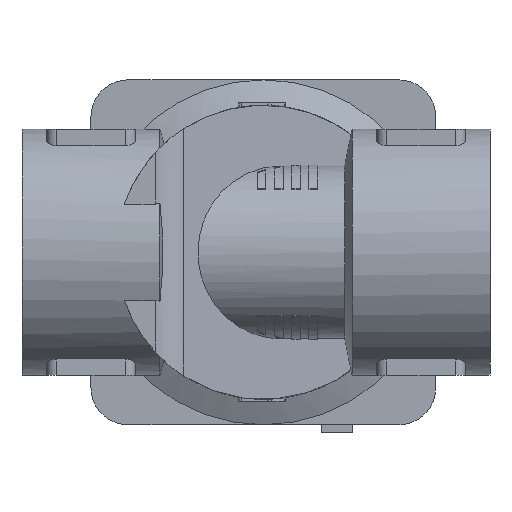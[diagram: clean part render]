
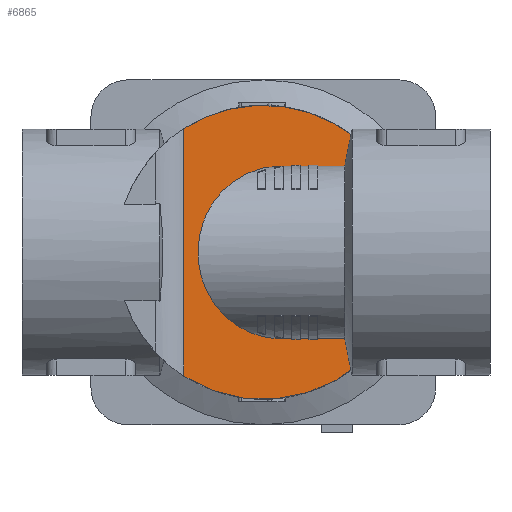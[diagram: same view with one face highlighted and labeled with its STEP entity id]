
A CAD part, front view. The second image highlights one B-rep face of the part: STEP entity #6865.
In plain terms, the highlighted planar face has unit normal (0.724, -0.69, 0).
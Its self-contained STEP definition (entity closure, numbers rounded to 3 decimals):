
#62=ELLIPSE('',#7210,43.243,29.85);
#67=ELLIPSE('',#7222,43.243,29.85);
#78=ELLIPSE('',#7252,24.186,17.5);
#85=ELLIPSE('',#7353,34.552,25.);
#86=ELLIPSE('',#7354,34.552,25.);
#129=B_SPLINE_CURVE_WITH_KNOTS('',3,(#10344,#10345,#10346,#10347),
 .UNSPECIFIED.,.F.,.F.,(4,4),(0.,0.002),
 .UNSPECIFIED.);
#130=B_SPLINE_CURVE_WITH_KNOTS('',3,(#10359,#10360,#10361,#10362),
 .UNSPECIFIED.,.F.,.F.,(4,4),(0.007,0.009),
 .UNSPECIFIED.);
#403=LINE('',#10077,#922);
#405=LINE('',#10081,#924);
#496=LINE('',#10352,#1015);
#497=LINE('',#10354,#1016);
#498=LINE('',#10355,#1017);
#499=LINE('',#10364,#1018);
#500=LINE('',#10365,#1019);
#922=VECTOR('',#8188,1000.);
#924=VECTOR('',#8192,1000.);
#1015=VECTOR('',#8459,1000.);
#1016=VECTOR('',#8460,1000.);
#1017=VECTOR('',#8461,1000.);
#1018=VECTOR('',#8464,1000.);
#1019=VECTOR('',#8465,1000.);
#2010=ORIENTED_EDGE('',*,*,#3374,.F.);
#2011=ORIENTED_EDGE('',*,*,#3375,.F.);
#2012=ORIENTED_EDGE('',*,*,#3376,.F.);
#2013=ORIENTED_EDGE('',*,*,#3377,.F.);
#2014=ORIENTED_EDGE('',*,*,#3148,.F.);
#2015=ORIENTED_EDGE('',*,*,#3243,.T.);
#2016=ORIENTED_EDGE('',*,*,#3172,.F.);
#2017=ORIENTED_EDGE('',*,*,#3245,.F.);
#2018=ORIENTED_EDGE('',*,*,#3378,.F.);
#2019=ORIENTED_EDGE('',*,*,#3379,.F.);
#2020=ORIENTED_EDGE('',*,*,#3380,.F.);
#2021=ORIENTED_EDGE('',*,*,#3381,.F.);
#2022=ORIENTED_EDGE('',*,*,#3218,.T.);
#2023=ORIENTED_EDGE('',*,*,#3382,.F.);
#3148=EDGE_CURVE('',#3922,#3923,#62,.F.);
#3172=EDGE_CURVE('',#3946,#3947,#67,.F.);
#3218=EDGE_CURVE('',#3993,#3992,#78,.F.);
#3243=EDGE_CURVE('',#3922,#3947,#403,.T.);
#3245=EDGE_CURVE('',#4011,#3946,#405,.T.);
#3374=EDGE_CURVE('',#4089,#4090,#129,.T.);
#3375=EDGE_CURVE('',#4091,#4089,#85,.T.);
#3376=EDGE_CURVE('',#4092,#4091,#496,.T.);
#3377=EDGE_CURVE('',#3923,#4092,#497,.T.);
#3378=EDGE_CURVE('',#4093,#4011,#498,.T.);
#3379=EDGE_CURVE('',#4094,#4093,#86,.T.);
#3380=EDGE_CURVE('',#4095,#4094,#130,.T.);
#3381=EDGE_CURVE('',#3993,#4095,#499,.T.);
#3382=EDGE_CURVE('',#4090,#3992,#500,.T.);
#3922=VERTEX_POINT('',#9789);
#3923=VERTEX_POINT('',#9791);
#3946=VERTEX_POINT('',#9878);
#3947=VERTEX_POINT('',#9880);
#3992=VERTEX_POINT('',#10011);
#3993=VERTEX_POINT('',#10013);
#4011=VERTEX_POINT('',#10080);
#4089=VERTEX_POINT('',#10348);
#4090=VERTEX_POINT('',#10349);
#4091=VERTEX_POINT('',#10351);
#4092=VERTEX_POINT('',#10353);
#4093=VERTEX_POINT('',#10356);
#4094=VERTEX_POINT('',#10358);
#4095=VERTEX_POINT('',#10363);
#4707=EDGE_LOOP('',(#2010,#2011,#2012,#2013,#2014,#2015,#2016,#2017,#2018,
#2019,#2020,#2021,#2022,#2023));
#5091=FACE_BOUND('',#4707,.T.);
#5420=PLANE('',#7352);
#6865=ADVANCED_FACE('',(#5091),#5420,.T.);
#7210=AXIS2_PLACEMENT_3D('',#9790,#8052,#8053);
#7222=AXIS2_PLACEMENT_3D('',#9879,#8080,#8081);
#7252=AXIS2_PLACEMENT_3D('',#10012,#8149,#8150);
#7352=AXIS2_PLACEMENT_3D('',#10343,#8455,#8456);
#7353=AXIS2_PLACEMENT_3D('',#10350,#8457,#8458);
#7354=AXIS2_PLACEMENT_3D('',#10357,#8462,#8463);
#8052=DIRECTION('',(0.724,-0.69,0.));
#8053=DIRECTION('',(0.69,0.724,0.));
#8080=DIRECTION('',(0.724,-0.69,0.));
#8081=DIRECTION('',(0.69,0.724,0.));
#8149=DIRECTION('',(0.724,-0.69,0.));
#8150=DIRECTION('',(-0.69,-0.724,0.));
#8188=DIRECTION('',(0.,0.,-1.));
#8192=DIRECTION('',(0.,0.,-1.));
#8455=DIRECTION('',(0.724,-0.69,0.));
#8456=DIRECTION('',(0.69,0.724,0.));
#8457=DIRECTION('',(0.724,-0.69,0.));
#8458=DIRECTION('',(0.69,0.724,0.));
#8459=DIRECTION('',(-0.69,-0.724,0.));
#8460=DIRECTION('',(0.,0.,-1.));
#8461=DIRECTION('',(0.69,0.724,0.));
#8462=DIRECTION('',(0.724,-0.69,0.));
#8463=DIRECTION('',(0.69,0.724,0.));
#8464=DIRECTION('',(0.69,0.724,0.));
#8465=DIRECTION('',(-0.69,-0.724,0.));
#9789=CARTESIAN_POINT('',(-16.136,-20.522,25.113));
#9790=CARTESIAN_POINT('',(0.,-3.608,0.));
#9791=CARTESIAN_POINT('',(23.,20.5,19.027));
#9878=CARTESIAN_POINT('',(23.,20.5,-19.027));
#9879=CARTESIAN_POINT('',(0.,-3.608,0.));
#9880=CARTESIAN_POINT('',(-16.136,-20.522,-25.113));
#10011=CARTESIAN_POINT('',(3.443,0.,17.5));
#10012=CARTESIAN_POINT('',(3.443,0.,0.));
#10013=CARTESIAN_POINT('',(3.443,0.,-17.5));
#10077=CARTESIAN_POINT('',(-16.136,-20.522,70.));
#10080=CARTESIAN_POINT('',(23.,20.5,-17.5));
#10081=CARTESIAN_POINT('',(23.,20.5,70.));
#10343=CARTESIAN_POINT('',(23.,20.5,70.));
#10344=CARTESIAN_POINT('',(18.,15.259,19.803));
#10345=CARTESIAN_POINT('',(17.861,15.113,19.036));
#10346=CARTESIAN_POINT('',(17.723,14.969,18.268));
#10347=CARTESIAN_POINT('',(17.587,14.826,17.5));
#10348=CARTESIAN_POINT('',(18.,15.259,19.803));
#10349=CARTESIAN_POINT('',(17.587,14.826,17.5));
#10350=CARTESIAN_POINT('',(3.443,0.,0.));
#10351=CARTESIAN_POINT('',(20.475,17.854,17.5));
#10352=CARTESIAN_POINT('',(23.,20.5,17.5));
#10353=CARTESIAN_POINT('',(23.,20.5,17.5));
#10354=CARTESIAN_POINT('',(23.,20.5,70.));
#10355=CARTESIAN_POINT('',(23.,20.5,-17.5));
#10356=CARTESIAN_POINT('',(20.475,17.854,-17.5));
#10357=CARTESIAN_POINT('',(3.443,0.,0.));
#10358=CARTESIAN_POINT('',(18.,15.259,-19.803));
#10359=CARTESIAN_POINT('',(17.587,14.826,-17.5));
#10360=CARTESIAN_POINT('',(17.723,14.969,-18.268));
#10361=CARTESIAN_POINT('',(17.861,15.113,-19.036));
#10362=CARTESIAN_POINT('',(18.,15.259,-19.803));
#10363=CARTESIAN_POINT('',(17.587,14.826,-17.5));
#10364=CARTESIAN_POINT('',(23.,20.5,-17.5));
#10365=CARTESIAN_POINT('',(23.,20.5,17.5));
